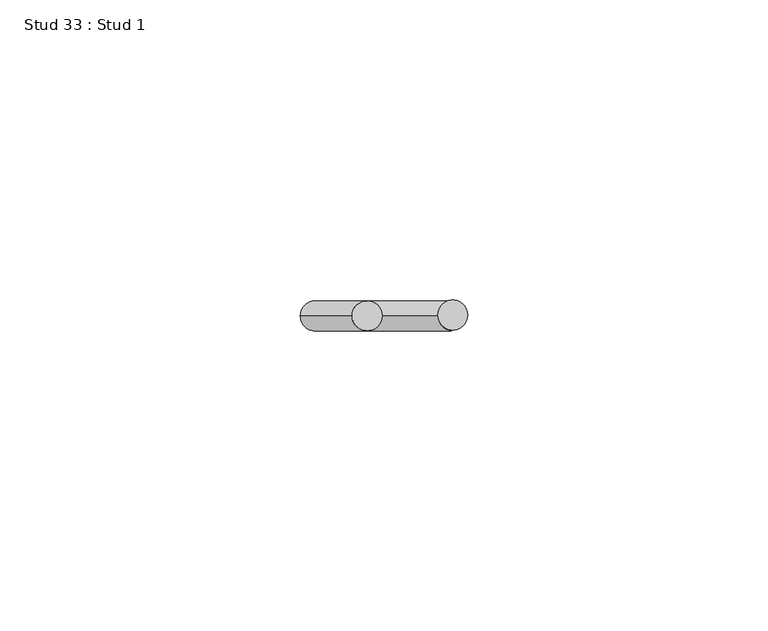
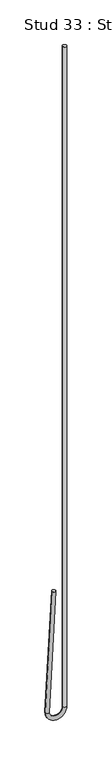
"""IFC4 building model written with IfcOpenShell, lengths in millimetres: proxy geometry, Stud 33 : Stud 1."""

from ifc_helpers import new_model, si_unit, point, frame, origin, place, context, project, spatial, circle_curve, ellipse_curve, trimmed, source, transform, mapped, element, save
from ifc_brep_helpers import plane_surface, cylinder_surface, revolved_surface, advanced_brep


def stud_33_stud_1_54817578(model_context):
    return source(origin(), model_context, "Body", "AdvancedBrep", [
        advanced_brep(
        [(-14671.4532788, 3381.5191481, 3640.800192), (-14666.4601311, 3381.5191481, 3640.5385122), (-14680.0939451, 3381.5191481, 3475.9264558), (-14675.1007975, 3381.5191481, 3475.664776), (-14657.1920812, 3381.5191481, 3475.7956159), (-14652.1920812, 3381.5191481, 3475.7956159), (-14652.1920812, 3381.5191481, 4390.1956159), (-14657.1920812, 3381.5191481, 4390.1956159)],
        [
            (0, 1, circle_curve(frame((-14668.9567049, 3381.5191481, 3640.6693521), z_axis=(0.05233595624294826, 0.0, 0.9986295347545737), x_axis=(0.9986295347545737, 0.0, -0.05233595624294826)), 2.5)),
            (1, 0, circle_curve(frame((-14668.9567049, 3381.5191481, 3640.6693521), z_axis=(0.05233595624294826, 0.0, 0.9986295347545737), x_axis=(0.9986295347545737, 0.0, -0.05233595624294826)), 2.5)),
            (0, 2),
            (2, 3, circle_curve(frame((-14677.5973713, 3381.5191481, 3475.7956159), z_axis=(0.05233595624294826, 0.0, 0.9986295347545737), x_axis=(0.9986295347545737, 0.0, -0.05233595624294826)), 2.5)),
            (3, 1),
            (3, 2, circle_curve(frame((-14677.5973713, 3381.5191481, 3475.7956159), z_axis=(0.05233595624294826, 0.0, 0.9986295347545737), x_axis=(0.9986295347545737, 0.0, -0.05233595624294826)), 2.5)),
            (4, 3, circle_curve(frame((-14666.1447263, 3381.5191481, 3475.7956159), z_axis=(0.0, 1.0, 0.0), x_axis=(-1.0, 0.0, 0.0)), 8.952645)),
            (2, 5, circle_curve(frame((-14666.1447263, 3381.5191481, 3475.7956159), z_axis=(0.0, -1.0, 0.0), x_axis=(-1.0, 0.0, 0.0)), 13.952645)),
            (5, 4, circle_curve(frame((-14654.6920812, 3381.5191481, 3475.7956159), z_axis=(0.0, 0.0, -1.0), x_axis=(-1.0, 0.0, 0.0)), 2.5)),
            (4, 5, circle_curve(frame((-14654.6920812, 3381.5191481, 3475.7956159), z_axis=(0.0, 0.0, -1.0), x_axis=(-1.0, 0.0, 0.0)), 2.5)),
            (6, 7, circle_curve(frame((-14654.6920812, 3381.5191481, 4390.1956159), z_axis=(0.0, 0.0, 1.0), x_axis=(-1.0, 0.0, 0.0)), 2.5)),
            (7, 6, circle_curve(frame((-14654.6920812, 3381.5191481, 4390.1956159), z_axis=(0.0, 0.0, 1.0), x_axis=(-1.0, 0.0, 0.0)), 2.5)),
            (5, 6),
            (7, 4),
        ],
        [
            plane_surface(frame((-14668.9567049, 3975.2441481, 3640.6693521), z_axis=(0.05233595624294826, 0.0, 0.9986295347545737), x_axis=(0.0, -1.0, 0.0))),
            cylinder_surface(frame((-14668.9567049, 3381.5191481, 3640.6693521), z_axis=(0.05233595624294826, 0.0, 0.9986295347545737), x_axis=(0.9986295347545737, 0.0, -0.05233595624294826)), 2.5),
            revolved_surface(trimmed(ellipse_curve(frame((-14677.5973713, 3381.5191481, 3475.7956159), z_axis=(0.0, 0.0, 1.0), x_axis=(1.0, 0.0, 0.0)), 2.5, 2.5), [point((-14680.0973713, 3381.5191481, 3475.7956159))], [point((-14675.0973713, 3381.5191481, 3475.7956159))], True, "CARTESIAN"), (-14666.1447263, 3975.2441481, 3475.7956159), (0.0, -1.0, 0.0)),
            revolved_surface(trimmed(ellipse_curve(frame((-14677.5973713, 3381.5191481, 3475.7956159), z_axis=(0.0, 0.0, 1.0), x_axis=(1.0, 0.0, 0.0)), 2.5, 2.5), [point((-14675.0973713, 3381.5191481, 3475.7956159))], [point((-14680.0973713, 3381.5191481, 3475.7956159))], True, "CARTESIAN"), (-14666.1447263, 3975.2441481, 3475.7956159), (0.0, -1.0, 0.0)),
            plane_surface(frame((-14654.6920812, 3975.2441481, 4390.1956159), z_axis=(0.0, 0.0, 1.0), x_axis=(0.0, -1.0, 0.0))),
            cylinder_surface(frame((-14654.6920812, 3381.5191481, 3475.7956159), z_axis=(0.0, 0.0, -1.0), x_axis=(-1.0, 0.0, 0.0)), 2.5),
        ],
        [
            (0, [[1, 2]]),
            (1, [[-1, 3, 4, 5]]),
            (1, [[-2, -5, 6, -3]]),
            (2, [[7, -4, 8, 9]]),
            (3, [[-8, -6, -7, 10]]),
            (4, [[11, 12]]),
            (5, [[-9, 13, -12, 14]]),
            (5, [[-10, -14, -11, -13]]),
        ],
    ),
    ])


if __name__ == "__main__":
    model = new_model("IFC4")
    model_context = context("Model", 3, world=origin())
    ifc_project = project(units=[si_unit("LENGTHUNIT", "METRE", prefix="MILLI")], contexts=[model_context])
    site = spatial("IfcSite", under=ifc_project)
    building = spatial("IfcBuilding", under=site)
    placement = place(None, origin())
    stud_33_stud_1_shape = stud_33_stud_1_54817578(model_context)
    element("IfcBuildingElementProxy", 1, Name="Stud 33 : Stud 1", ObjectType="Stud 33 : Stud 1", at=placement, inside=building, context=model_context, shape_type="MappedRepresentation", body=[
        mapped(stud_33_stud_1_shape, transform((0.0, 0.0, 0.0), x_axis=(1.0, 0.0, 0.0), y_axis=(0.0, 1.0, 0.0), z_axis=(0.0, 0.0, 1.0))),
    ])
    save(model, "model.ifc")
